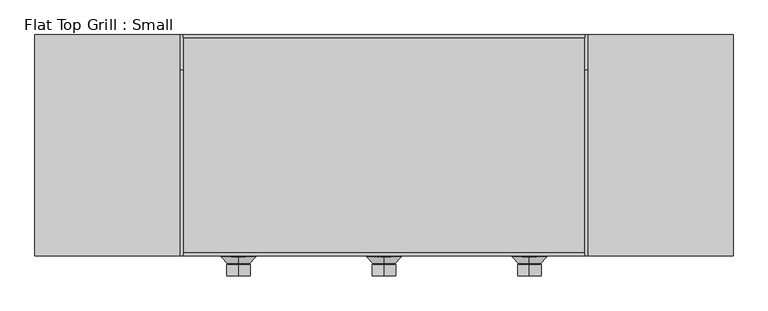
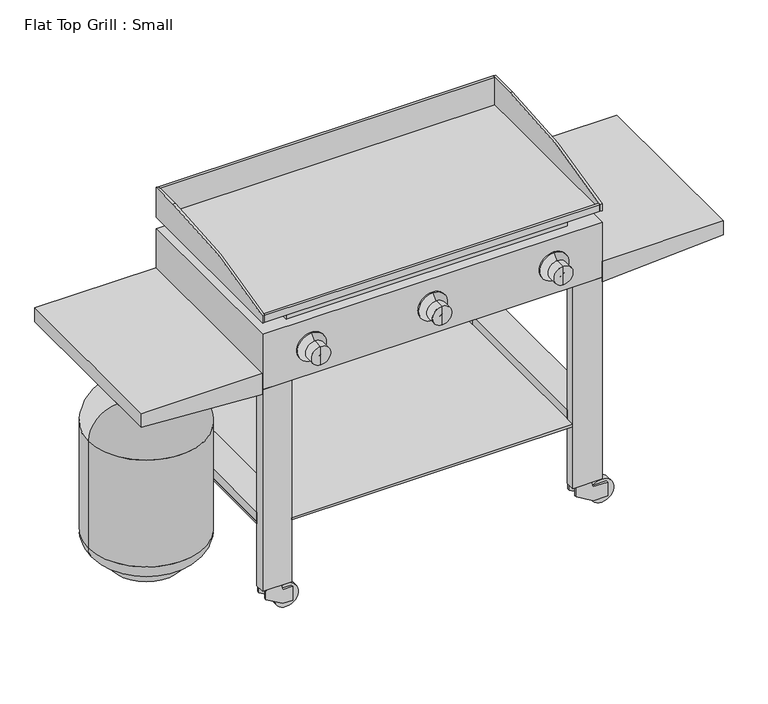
"""IFC4 building model written with IfcOpenShell, lengths in millimetres: proxy geometry, Flat Top Grill : Small."""

import ifcopenshell
import ifcopenshell.guid

model = None  # the IFC model being written
_history = None  # IfcOwnerHistory: only IFC2X3 demands one
_inside = {}  # id of a spatial element -> (the spatial element, [elements in it])
_under = {}  # id of a project, library or spatial element -> (it, [spatial elements below it])
_declared = {}  # id of a project -> (the project, [libraries it declares])
_typed = {}  # id of a type object -> (the type object, [elements of that type])
_made_of = {}  # id of a material, layer set ... -> (it, [elements and type objects made of it])


def new_model(schema):
    """Start an empty IFC model of exactly this schema.

    Asked for "IFC4X3", IfcOpenShell would pick the latest addendum, in which some entities
    have other attributes; the version numbers below select the first issue.
    IFC2X3 requires an IfcOwnerHistory on every rooted entity: one is made here for all.
    """
    global model, _history
    if schema == "IFC4X3":
        model = ifcopenshell.file(schema_version=(4, 3, 0, 0))
    else:
        model = ifcopenshell.file(schema=schema)
    _inside.clear()
    _under.clear()
    _declared.clear()
    _typed.clear()
    _made_of.clear()
    _history = None
    if model.schema == "IFC2X3":
        org = make("IfcOrganization", Name="unknown")
        user = make(
            "IfcPersonAndOrganization",
            ThePerson=make("IfcPerson", FamilyName="unknown"),
            TheOrganization=org,
        )
        app = make(
            "IfcApplication",
            ApplicationDeveloper=org,
            Version="unknown",
            ApplicationFullName="unknown",
            ApplicationIdentifier="unknown",
        )
        _history = make(
            "IfcOwnerHistory",
            OwningUser=user,
            OwningApplication=app,
            ChangeAction="ADDED",
            CreationDate=0,
        )
    return model


def make(cls, **values):
    """One entity of the class cls with the attributes given. An attribute that is None is left unset."""
    return model.create_entity(
        cls, **{name: value for name, value in values.items() if value is not None}
    )


def rooted(cls, **values):
    """An entity with a GlobalId (a new one), such as an element, a storey or a relation."""
    return make(cls, GlobalId=ifcopenshell.guid.new(), OwnerHistory=_history, **values)


def si_unit(unit_type, name, prefix=None):
    """IfcSIUnit, for example si_unit("LENGTHUNIT", "METRE", prefix="MILLI")."""
    return make("IfcSIUnit", UnitType=unit_type, Prefix=prefix, Name=name)


def assignment(units):
    """IfcUnitAssignment: the units of a project."""
    return None if units is None else make("IfcUnitAssignment", Units=units)


def point(xyz):
    """IfcCartesianPoint."""
    return None if xyz is None else make("IfcCartesianPoint", Coordinates=xyz)


def direction(xyz):
    """IfcDirection."""
    return None if xyz is None else make("IfcDirection", DirectionRatios=xyz)


def frame(location, z_axis=None, x_axis=None):
    """IfcAxis2Placement3D, a coordinate frame: its origin and axes. An axis left out is left unset."""
    return make(
        "IfcAxis2Placement3D",
        Location=point(location),
        Axis=direction(z_axis),
        RefDirection=direction(x_axis),
    )


def frame_2d(location, x_axis=None):
    """IfcAxis2Placement2D, a coordinate frame in the plane: its origin and x axis."""
    return make(
        "IfcAxis2Placement2D", Location=point(location), RefDirection=direction(x_axis)
    )


def origin():
    """The frame at (0, 0, 0) with its axes left unset."""
    return frame((0.0, 0.0, 0.0))


def place(relative_to, where):
    """IfcLocalPlacement: puts the frame where relative to a parent placement (None: the world)."""
    return make(
        "IfcLocalPlacement", PlacementRelTo=relative_to, RelativePlacement=where
    )


def context(
    kind, dimensions, precision=None, world=None, true_north=None, identifier=None
):
    """IfcGeometricRepresentationContext, for example the 3D "Model" context."""
    return make(
        "IfcGeometricRepresentationContext",
        ContextIdentifier=identifier,
        ContextType=kind,
        CoordinateSpaceDimension=dimensions,
        Precision=precision,
        WorldCoordinateSystem=world,
        TrueNorth=true_north,
    )


def project(units=None, contexts=None):
    """IfcProject with its units and contexts."""
    return rooted(
        "IfcProject",
        Name="project",
        RepresentationContexts=contexts,
        UnitsInContext=assignment(units),
    )


def spatial(cls, under=None, at=None, **own):
    """A site, building, storey or space (cls), placed at a placement, below another one or the project."""
    s = rooted(cls, ObjectPlacement=at, **own)
    if under is not None:
        _under.setdefault(under.id(), (under, []))[1].append(s)
    return s


def polyline(points):
    """IfcPolyline through the points."""
    return make("IfcPolyline", Points=[point(p) for p in points])


def circle_curve(where, radius):
    """IfcCircle in the frame where."""
    return make("IfcCircle", Position=where, Radius=radius)


def ellipse_curve(where, semi_axis1, semi_axis2):
    """IfcEllipse in the frame where."""
    return make(
        "IfcEllipse", Position=where, SemiAxis1=semi_axis1, SemiAxis2=semi_axis2
    )


def trimmed(basis, trim1, trim2, sense, master):
    """IfcTrimmedCurve: the piece of a basis curve between two trims."""
    return make(
        "IfcTrimmedCurve",
        BasisCurve=basis,
        Trim1=trim1,
        Trim2=trim2,
        SenseAgreement=sense,
        MasterRepresentation=master,
    )


def segment(curve, same_sense, transition):
    """IfcCompositeCurveSegment."""
    return make(
        "IfcCompositeCurveSegment",
        Transition=transition,
        SameSense=same_sense,
        ParentCurve=curve,
    )


def composite_curve(segments, self_intersect=None):
    """IfcCompositeCurve: segments joined end to end."""
    return make("IfcCompositeCurve", Segments=segments, SelfIntersect=self_intersect)


def outline(outer, holes=None, kind="AREA"):
    """IfcArbitraryClosedProfileDef: a profile drawn as a closed curve; with holes, ...WithVoids."""
    if holes is None:
        return make("IfcArbitraryClosedProfileDef", ProfileType=kind, OuterCurve=outer)
    return make(
        "IfcArbitraryProfileDefWithVoids",
        ProfileType=kind,
        OuterCurve=outer,
        InnerCurves=holes,
    )


def extrude(swept, where, along, depth):
    """IfcExtrudedAreaSolid: the profile swept, set in the frame where, extruded along a direction by depth."""
    return make(
        "IfcExtrudedAreaSolid",
        SweptArea=swept,
        Position=where,
        ExtrudedDirection=direction(along),
        Depth=depth,
    )


def shape(context_of_items, identifier, shape_type, items):
    """IfcShapeRepresentation: the items that make up one representation, for example the "Body"."""
    return make(
        "IfcShapeRepresentation",
        ContextOfItems=context_of_items,
        RepresentationIdentifier=identifier,
        RepresentationType=shape_type,
        Items=items,
    )


def source(mapping_origin, context_of_items, identifier, shape_type, items):
    """IfcRepresentationMap: a shape defined once, which mapped items show again and again."""
    return make(
        "IfcRepresentationMap",
        MappingOrigin=mapping_origin,
        MappedRepresentation=shape(context_of_items, identifier, shape_type, items),
    )


def transform(
    local_origin,
    x_axis=None,
    y_axis=None,
    z_axis=None,
    scale=None,
    scale2=None,
    scale3=None,
    uniform=True,
):
    """IfcCartesianTransformationOperator3D, or its non-uniform kind. x_axis, y_axis, z_axis: its Axis1, 2, 3."""
    if uniform:
        return make(
            "IfcCartesianTransformationOperator3D",
            Axis1=direction(x_axis),
            Axis2=direction(y_axis),
            LocalOrigin=point(local_origin),
            Scale=scale,
            Axis3=direction(z_axis),
        )
    return make(
        "IfcCartesianTransformationOperator3DnonUniform",
        Axis1=direction(x_axis),
        Axis2=direction(y_axis),
        LocalOrigin=point(local_origin),
        Scale=scale,
        Axis3=direction(z_axis),
        Scale2=scale2,
        Scale3=scale3,
    )


def mapped(mapping_source, mapping_target):
    """IfcMappedItem: shows the shape of a source again, moved by a transform."""
    return make(
        "IfcMappedItem", MappingSource=mapping_source, MappingTarget=mapping_target
    )


def made_of(thing, what):
    """Note that an element or type object is made of a material, layer set ...; save() writes the relation."""
    if what is not None:
        _made_of.setdefault(what.id(), (what, []))[1].append(thing)
    return thing


def element(
    cls,
    number,
    at=None,
    inside=None,
    cuts=None,
    type_object=None,
    material=None,
    context=None,
    identifier="Body",
    shape_type=None,
    held_by="IfcProductDefinitionShape",
    body=None,
    shapes=None,
    **own,
):
    """One element of the class cls, such as IfcWall. Its Tag is "e" and its number.

    at: its placement. inside: the storey or other place that contains it. cuts: it is an
    opening in that element (IfcRelVoidsElement). A single representation is given by context,
    identifier, shape_type and body (its items); several are given by shapes. held_by: the class
    of the entity that holds the representations. save() writes the other relations.
    """
    e = rooted(cls, Tag="e%d" % number, ObjectPlacement=at, **own)
    if body is not None:
        shapes = [shape(context, identifier, shape_type, body)]
    if shapes is not None:
        e.Representation = make(held_by, Representations=shapes)
    if inside is not None:
        _inside.setdefault(inside.id(), (inside, []))[1].append(e)
    if cuts is not None:
        rooted(
            "IfcRelVoidsElement", RelatingBuildingElement=cuts, RelatedOpeningElement=e
        )
    if type_object is not None:
        _typed.setdefault(type_object.id(), (type_object, []))[1].append(e)
    return made_of(e, material)


def aggregate(whole, parts):
    """IfcRelAggregates: a whole, such as a stair, and the parts it consists of."""
    return rooted("IfcRelAggregates", RelatingObject=whole, RelatedObjects=parts)


def save(model, path):
    """Write the relations noted so far, then the file.

    IfcRelAggregates (storeys below a building ...), IfcRelContainedInSpatialStructure (elements
    in a storey), IfcRelDefinesByType, IfcRelAssociatesMaterial and IfcRelDeclares: one each for
    every whole, place, type object, material and project.
    """
    for whole, parts in _under.values():
        aggregate(whole, parts)
    for where, things in _inside.values():
        rooted(
            "IfcRelContainedInSpatialStructure",
            RelatedElements=things,
            RelatingStructure=where,
        )
    for kind, things in _typed.values():
        rooted("IfcRelDefinesByType", RelatedObjects=things, RelatingType=kind)
    for what, things in _made_of.values():
        rooted("IfcRelAssociatesMaterial", RelatedObjects=things, RelatingMaterial=what)
    for by, libraries in _declared.values():
        rooted("IfcRelDeclares", RelatingContext=by, RelatedDefinitions=libraries)
    model.write(path)


def plane_surface(at):
    """IfcPlane: the flat surface through the origin of the frame at, square to its z axis."""
    return make("IfcPlane", Position=at)


def cylinder_surface(at, radius):
    """IfcCylindricalSurface: all points at the distance radius from the z axis of the frame at."""
    return make("IfcCylindricalSurface", Position=at, Radius=radius)


def revolved_surface(curve, axis_point, axis_direction):
    """IfcSurfaceOfRevolution: the curve turned about the line through axis_point along axis_direction."""
    return make(
        "IfcSurfaceOfRevolution",
        SweptCurve=make("IfcArbitraryOpenProfileDef", ProfileType="CURVE", Curve=curve),
        AxisPosition=make("IfcAxis1Placement", Location=point(axis_point), Axis=direction(axis_direction)),
    )


def advanced_brep(points, edges, surfaces, faces):
    """IfcAdvancedBrep: a solid bounded by faces that lie on surfaces and meet in shared edges.

    An edge is (start, end): straight between two places in points (the first is 0);
    or (start, end, curve); or (start, end, curve, False) where it runs against its curve.
    A face is (place in surfaces, loops), or (place, loops, False) where it looks against
    its surface's normal. A loop lists edges by number (the first is 1), with a minus sign
    where the edge is run from its end to its start. The first loop is the outer one.
    """
    corners = [point(p) for p in points]
    vertices = [make("IfcVertexPoint", VertexGeometry=c) for c in corners]
    made = []
    for start, end, *more in edges:
        made.append(
            make(
                "IfcEdgeCurve",
                EdgeStart=vertices[start],
                EdgeEnd=vertices[end],
                EdgeGeometry=more[0] if more else make("IfcPolyline", Points=[corners[start], corners[end]]),
                SameSense=more[1] if len(more) > 1 else True,
            )
        )
    hull = []
    for where, loops, *sense in faces:
        bounds = []
        for j, loop in enumerate(loops):
            ring = [make("IfcOrientedEdge", EdgeElement=made[abs(k) - 1], Orientation=k > 0) for k in loop]
            bounds.append(
                make(
                    "IfcFaceOuterBound" if j == 0 else "IfcFaceBound",
                    Bound=make("IfcEdgeLoop", EdgeList=ring),
                    Orientation=True,
                )
            )
        hull.append(make("IfcAdvancedFace", Bounds=bounds, FaceSurface=surfaces[where], SameSense=sense[0] if sense else True))
    return make("IfcAdvancedBrep", Outer=make("IfcClosedShell", CfsFaces=hull))


def flat_top_grill_small_9eb78ae7(model_context):
    return source(origin(), model_context, "Body", "SolidModel", [
        advanced_brep(
        [(-698.5, 0.0, 76.2), (-520.7, 0.0, 76.2), (-609.6, 0.0, 76.2), (-698.5, 0.0, 111.125), (-520.7, 0.0, 111.125), (-762.0, 0.0, 457.2), (-457.2, 0.0, 457.2), (-457.2, 0.0, 161.925), (-762.0, 0.0, 161.925), (-609.6, 0.0, 533.4), (-533.4, 0.0, 533.4), (-685.8, 0.0, 533.4), (-508.0, 0.0, 111.125), (-711.2, 0.0, 111.125)],
        [
            (0, 1, circle_curve(frame((-609.6, 0.0, 76.2), z_axis=(0.0, 0.0, -1.0), x_axis=(1.0, 0.0, 0.0)), 88.9)),
            (1, 2),
            (2, 0),
            (1, 0, circle_curve(frame((-609.6, 0.0, 76.2), z_axis=(0.0, 0.0, -1.0), x_axis=(1.0, 0.0, 0.0)), 88.9)),
            (3, 4, circle_curve(frame((-609.6, 0.0, 111.125), z_axis=(0.0, 0.0, -1.0), x_axis=(1.0, 0.0, 0.0)), 88.9)),
            (4, 1),
            (0, 3),
            (4, 3, circle_curve(frame((-609.6, 0.0, 111.125), z_axis=(0.0, 0.0, -1.0), x_axis=(1.0, 0.0, 0.0)), 88.9)),
            (5, 6, circle_curve(frame((-609.6, 0.0, 457.2), z_axis=(0.0, 0.0, -1.0), x_axis=(1.0, 0.0, 0.0)), 152.4)),
            (6, 7),
            (7, 8, circle_curve(frame((-609.6, 0.0, 161.925), z_axis=(0.0, 0.0, 1.0), x_axis=(1.0, 0.0, 0.0)), 152.4)),
            (8, 5),
            (6, 5, circle_curve(frame((-609.6, 0.0, 457.2), z_axis=(0.0, 0.0, -1.0), x_axis=(1.0, 0.0, 0.0)), 152.4)),
            (8, 7, circle_curve(frame((-609.6, 0.0, 161.925), z_axis=(0.0, 0.0, 1.0), x_axis=(1.0, 0.0, 0.0)), 152.4)),
            (9, 10),
            (10, 11, circle_curve(frame((-609.6, 0.0, 533.4), z_axis=(0.0, 0.0, 1.0), x_axis=(1.0, 0.0, 0.0)), 76.2)),
            (11, 9),
            (11, 10, circle_curve(frame((-609.6, 0.0, 533.4), z_axis=(0.0, 0.0, 1.0), x_axis=(1.0, 0.0, 0.0)), 76.2)),
            (7, 12, circle_curve(frame((-508.0, 0.0, 161.925), z_axis=(0.0, 1.0, 0.0), x_axis=(1.0, 0.0, 0.0)), 50.8)),
            (12, 13, circle_curve(frame((-609.6, 0.0, 111.125), z_axis=(0.0, 0.0, 1.0), x_axis=(1.0, 0.0, 0.0)), 101.6)),
            (13, 8, circle_curve(frame((-711.2, 0.0, 161.925), z_axis=(0.0, 1.0, 0.0), x_axis=(-1.0, 0.0, 0.0)), 50.8)),
            (13, 12, circle_curve(frame((-609.6, 0.0, 111.125), z_axis=(0.0, 0.0, 1.0), x_axis=(1.0, 0.0, 0.0)), 101.6)),
            (10, 6, circle_curve(frame((-533.4, 0.0, 457.2), z_axis=(0.0, 1.0, 0.0), x_axis=(1.0, 0.0, 0.0)), 76.2)),
            (5, 11, circle_curve(frame((-685.8, 0.0, 457.2), z_axis=(0.0, 1.0, 0.0), x_axis=(-1.0, 0.0, 0.0)), 76.2)),
            (12, 4),
            (3, 13),
        ],
        [
            plane_surface(frame((-609.6, 0.0, 76.2), z_axis=(0.0, 0.0, -1.0), x_axis=(1.0, 0.0, 0.0))),
            cylinder_surface(frame((-609.6, 0.0, 50.8), z_axis=(0.0, 0.0, 1.0), x_axis=(1.0, 0.0, 0.0)), 88.9),
            cylinder_surface(frame((-609.6, 0.0, 50.8), z_axis=(0.0, 0.0, 1.0), x_axis=(1.0, 0.0, 0.0)), 152.4),
            plane_surface(frame((-609.6, 0.0, 533.4), z_axis=(0.0, 0.0, 1.0), x_axis=(1.0, 0.0, 0.0))),
            revolved_surface(trimmed(ellipse_curve(frame((-508.0, 0.0, 161.925), z_axis=(0.0, -1.0, 0.0), x_axis=(1.0, 0.0, 0.0)), 50.8, 50.8), [point((-508.0, 0.0, 111.125))], [point((-457.2, 0.0, 161.925))], True, "CARTESIAN"), (-609.6, 0.0, 50.8), (0.0, 0.0, 1.0)),
            revolved_surface(trimmed(ellipse_curve(frame((-533.4, 0.0, 457.2), z_axis=(0.0, -1.0, 0.0), x_axis=(1.0, 0.0, 0.0)), 76.2, 76.2), [point((-457.2, 0.0, 457.2))], [point((-533.4, 0.0, 533.4))], True, "CARTESIAN"), (-609.6, 0.0, 50.8), (0.0, 0.0, 1.0)),
            plane_surface(frame((-609.6, 0.0, 111.125), z_axis=(0.0, 0.0, -1.0), x_axis=(1.0, 0.0, 0.0))),
        ],
        [
            (0, [[1, 2, 3]]),
            (0, [[4, -3, -2]]),
            (1, [[5, 6, -1, 7]]),
            (1, [[8, -7, -4, -6]]),
            (2, [[9, 10, 11, 12]]),
            (2, [[13, -12, 14, -10]]),
            (3, [[15, 16, 17]]),
            (3, [[-17, 18, -15]]),
            (4, [[-11, 19, 20, 21]]),
            (4, [[-14, -21, 22, -19]]),
            (5, [[-16, 23, -9, 24]]),
            (5, [[-18, -24, -13, -23]]),
            (6, [[-20, 25, -5, 26]]),
            (6, [[-22, -26, -8, -25]]),
        ],
    ),
        extrude(outline(composite_curve([segment(trimmed(circle_curve(frame_2d((-609.6, 0.0)), 76.2), [point((-663.4815367, -53.8815367))], [point((-555.7184633, -53.8815367))], False, "CARTESIAN"), True, "CONTINUOUS"), segment(polyline([(-555.7184633, -53.8815367), (-559.0860593, -50.5139407)]), True, "CONTINUOUS"), segment(trimmed(circle_curve(frame_2d((-609.6, 0.0)), 71.4375), [point((-559.0860593, -50.5139407))], [point((-660.1139407, -50.5139407))], True, "CARTESIAN"), True, "CONTINUOUS"), segment(polyline([(-660.1139407, -50.5139407), (-663.4815367, -53.8815367)]), True, "CONTINUOUS")], self_intersect=False)), frame((0.0, 0.0, 533.4), z_axis=(0.0, 0.0, 1.0), x_axis=(1.0, 0.0, 0.0)), (0.0, 0.0, 1.0), 50.8),
        advanced_brep(
        [(-641.35, 0.0, 571.5), (-577.85, 0.0, 571.5), (-577.85, 0.0, 565.15), (-641.35, 0.0, 565.15), (-609.6, 0.0, 571.5), (-619.125, 0.0, 533.4), (-600.075, 0.0, 533.4), (-609.6, 0.0, 533.4), (-619.125, 0.0, 565.15), (-600.075, 0.0, 565.15)],
        [
            (0, 1, circle_curve(frame((-609.6, 0.0, 571.5), z_axis=(0.0, 0.0, -1.0), x_axis=(1.0, 0.0, 0.0)), 31.75)),
            (1, 2),
            (2, 3, circle_curve(frame((-609.6, 0.0, 565.15), z_axis=(0.0, 0.0, 1.0), x_axis=(1.0, 0.0, 0.0)), 31.75)),
            (3, 0),
            (1, 0, circle_curve(frame((-609.6, 0.0, 571.5), z_axis=(0.0, 0.0, -1.0), x_axis=(1.0, 0.0, 0.0)), 31.75)),
            (3, 2, circle_curve(frame((-609.6, 0.0, 565.15), z_axis=(0.0, 0.0, 1.0), x_axis=(1.0, 0.0, 0.0)), 31.75)),
            (4, 1),
            (0, 4),
            (5, 6, circle_curve(frame((-609.6, 0.0, 533.4), z_axis=(0.0, 0.0, -1.0), x_axis=(1.0, 0.0, 0.0)), 9.525)),
            (6, 7),
            (7, 5),
            (6, 5, circle_curve(frame((-609.6, 0.0, 533.4), z_axis=(0.0, 0.0, -1.0), x_axis=(1.0, 0.0, 0.0)), 9.525)),
            (8, 9, circle_curve(frame((-609.6, 0.0, 565.15), z_axis=(0.0, 0.0, -1.0), x_axis=(1.0, 0.0, 0.0)), 9.525)),
            (9, 6),
            (5, 8),
            (9, 8, circle_curve(frame((-609.6, 0.0, 565.15), z_axis=(0.0, 0.0, -1.0), x_axis=(1.0, 0.0, 0.0)), 9.525)),
            (2, 9),
            (8, 3),
        ],
        [
            cylinder_surface(frame((-609.6, 0.0, 508.0), z_axis=(0.0, 0.0, 1.0), x_axis=(1.0, 0.0, 0.0)), 31.75),
            plane_surface(frame((-609.6, 0.0, 571.5), z_axis=(0.0, 0.0, 1.0), x_axis=(1.0, 0.0, 0.0))),
            plane_surface(frame((-609.6, 0.0, 533.4), z_axis=(0.0, 0.0, -1.0), x_axis=(1.0, 0.0, 0.0))),
            cylinder_surface(frame((-609.6, 0.0, 508.0), z_axis=(0.0, 0.0, 1.0), x_axis=(1.0, 0.0, 0.0)), 9.525),
            plane_surface(frame((-609.6, 0.0, 565.15), z_axis=(0.0, 0.0, -1.0), x_axis=(1.0, 0.0, 0.0))),
        ],
        [
            (0, [[1, 2, 3, 4]]),
            (0, [[5, -4, 6, -2]]),
            (1, [[7, -1, 8]]),
            (1, [[-8, -5, -7]]),
            (2, [[9, 10, 11]]),
            (2, [[12, -11, -10]]),
            (3, [[13, 14, -9, 15]]),
            (3, [[16, -15, -12, -14]]),
            (4, [[-3, 17, -13, 18]]),
            (4, [[-6, -18, -16, -17]]),
        ],
    ),
        advanced_brep(
        [(0.0, -241.3, 749.3), (0.0, -241.3, 673.1), (0.0, -241.3, 711.2), (0.0, -244.475, 749.3), (0.0, -244.475, 673.1), (0.0, -258.7625, 735.0125), (0.0, -258.7625, 687.3875), (0.0, -260.35, 736.6), (0.0, -260.35, 685.8), (0.0, -285.75, 736.6), (0.0, -285.75, 685.8), (0.0, -285.75, 711.2)],
        [
            (0, 1, circle_curve(frame((0.0, -241.3, 711.2), z_axis=(0.0, 1.0, 0.0), x_axis=(0.0, 0.0, -1.0)), 38.1)),
            (1, 2),
            (2, 0),
            (1, 0, circle_curve(frame((0.0, -241.3, 711.2), z_axis=(0.0, 1.0, 0.0), x_axis=(0.0, 0.0, -1.0)), 38.1)),
            (3, 4, circle_curve(frame((0.0, -244.475, 711.2), z_axis=(0.0, 1.0, 0.0), x_axis=(0.0, 0.0, -1.0)), 38.1)),
            (4, 1),
            (0, 3),
            (4, 3, circle_curve(frame((0.0, -244.475, 711.2), z_axis=(0.0, 1.0, 0.0), x_axis=(0.0, 0.0, -1.0)), 38.1)),
            (5, 6, circle_curve(frame((0.0, -258.7625, 711.2), z_axis=(0.0, 1.0, 0.0), x_axis=(0.0, 0.0, -1.0)), 23.8125)),
            (6, 4),
            (3, 5),
            (6, 5, circle_curve(frame((0.0, -258.7625, 711.2), z_axis=(0.0, 1.0, 0.0), x_axis=(0.0, 0.0, -1.0)), 23.8125)),
            (7, 8, circle_curve(frame((0.0, -260.35, 711.2), z_axis=(0.0, 1.0, 0.0), x_axis=(0.0, 0.0, -1.0)), 25.4)),
            (8, 6),
            (5, 7),
            (8, 7, circle_curve(frame((0.0, -260.35, 711.2), z_axis=(0.0, 1.0, 0.0), x_axis=(0.0, 0.0, -1.0)), 25.4)),
            (9, 10, circle_curve(frame((0.0, -285.75, 711.2), z_axis=(0.0, 1.0, 0.0), x_axis=(0.0, 0.0, -1.0)), 25.4)),
            (10, 8),
            (7, 9),
            (10, 9, circle_curve(frame((0.0, -285.75, 711.2), z_axis=(0.0, 1.0, 0.0), x_axis=(0.0, 0.0, -1.0)), 25.4)),
            (11, 10),
            (9, 11),
        ],
        [
            plane_surface(frame((0.0, -241.3, 711.2), z_axis=(0.0, 1.0, 0.0), x_axis=(0.0, 0.0, -1.0))),
            cylinder_surface(frame((0.0, -285.75, 711.2), z_axis=(0.0, -1.0, 0.0), x_axis=(0.0, 0.0, -1.0)), 38.1),
            revolved_surface(polyline([(0.0, -244.475, 673.1), (0.0, -258.7625, 687.3875)]), (0.0, -285.75, 711.2), (0.0, -1.0, 0.0)),
            revolved_surface(polyline([(0.0, -258.7625, 687.3875), (0.0, -260.35, 685.8)]), (0.0, -285.75, 711.2), (0.0, -1.0, 0.0)),
            cylinder_surface(frame((0.0, -285.75, 711.2), z_axis=(0.0, -1.0, 0.0), x_axis=(0.0, 0.0, -1.0)), 25.4),
            plane_surface(frame((0.0, -285.75, 711.2), z_axis=(0.0, -1.0, 0.0), x_axis=(0.0, 0.0, -1.0))),
        ],
        [
            (0, [[1, 2, 3]]),
            (0, [[4, -3, -2]]),
            (1, [[5, 6, -1, 7]]),
            (1, [[8, -7, -4, -6]]),
            (2, [[9, 10, -5, 11]]),
            (2, [[12, -11, -8, -10]]),
            (3, [[13, 14, -9, 15]]),
            (3, [[16, -15, -12, -14]]),
            (4, [[17, 18, -13, 19]]),
            (4, [[20, -19, -16, -18]]),
            (5, [[21, -17, 22]]),
            (5, [[-22, -20, -21]]),
        ],
    ),
        advanced_brep(
        [(-317.5, -241.3, 749.3), (-317.5, -241.3, 673.1), (-317.5, -241.3, 711.2), (-317.5, -244.475, 749.3), (-317.5, -244.475, 673.1), (-317.5, -258.7625, 735.0125), (-317.5, -258.7625, 687.3875), (-317.5, -260.35, 736.6), (-317.5, -260.35, 685.8), (-317.5, -285.75, 736.6), (-317.5, -285.75, 685.8), (-317.5, -285.75, 711.2)],
        [
            (0, 1, circle_curve(frame((-317.5, -241.3, 711.2), z_axis=(0.0, 1.0, 0.0), x_axis=(0.0, 0.0, -1.0)), 38.1)),
            (1, 2),
            (2, 0),
            (1, 0, circle_curve(frame((-317.5, -241.3, 711.2), z_axis=(0.0, 1.0, 0.0), x_axis=(0.0, 0.0, -1.0)), 38.1)),
            (3, 4, circle_curve(frame((-317.5, -244.475, 711.2), z_axis=(0.0, 1.0, 0.0), x_axis=(0.0, 0.0, -1.0)), 38.1)),
            (4, 1),
            (0, 3),
            (4, 3, circle_curve(frame((-317.5, -244.475, 711.2), z_axis=(0.0, 1.0, 0.0), x_axis=(0.0, 0.0, -1.0)), 38.1)),
            (5, 6, circle_curve(frame((-317.5, -258.7625, 711.2), z_axis=(0.0, 1.0, 0.0), x_axis=(0.0, 0.0, -1.0)), 23.8125)),
            (6, 4),
            (3, 5),
            (6, 5, circle_curve(frame((-317.5, -258.7625, 711.2), z_axis=(0.0, 1.0, 0.0), x_axis=(0.0, 0.0, -1.0)), 23.8125)),
            (7, 8, circle_curve(frame((-317.5, -260.35, 711.2), z_axis=(0.0, 1.0, 0.0), x_axis=(0.0, 0.0, -1.0)), 25.4)),
            (8, 6),
            (5, 7),
            (8, 7, circle_curve(frame((-317.5, -260.35, 711.2), z_axis=(0.0, 1.0, 0.0), x_axis=(0.0, 0.0, -1.0)), 25.4)),
            (9, 10, circle_curve(frame((-317.5, -285.75, 711.2), z_axis=(0.0, 1.0, 0.0), x_axis=(0.0, 0.0, -1.0)), 25.4)),
            (10, 8),
            (7, 9),
            (10, 9, circle_curve(frame((-317.5, -285.75, 711.2), z_axis=(0.0, 1.0, 0.0), x_axis=(0.0, 0.0, -1.0)), 25.4)),
            (11, 10),
            (9, 11),
        ],
        [
            plane_surface(frame((-317.5, -241.3, 711.2), z_axis=(0.0, 1.0, 0.0), x_axis=(0.0, 0.0, -1.0))),
            cylinder_surface(frame((-317.5, -285.75, 711.2), z_axis=(0.0, -1.0, 0.0), x_axis=(0.0, 0.0, -1.0)), 38.1),
            revolved_surface(polyline([(-317.5, -244.475, 673.1), (-317.5, -258.7625, 687.3875)]), (-317.5, -285.75, 711.2), (0.0, -1.0, 0.0)),
            revolved_surface(polyline([(-317.5, -258.7625, 687.3875), (-317.5, -260.35, 685.8)]), (-317.5, -285.75, 711.2), (0.0, -1.0, 0.0)),
            cylinder_surface(frame((-317.5, -285.75, 711.2), z_axis=(0.0, -1.0, 0.0), x_axis=(0.0, 0.0, -1.0)), 25.4),
            plane_surface(frame((-317.5, -285.75, 711.2), z_axis=(0.0, -1.0, 0.0), x_axis=(0.0, 0.0, -1.0))),
        ],
        [
            (0, [[1, 2, 3]]),
            (0, [[4, -3, -2]]),
            (1, [[5, 6, -1, 7]]),
            (1, [[8, -7, -4, -6]]),
            (2, [[9, 10, -5, 11]]),
            (2, [[12, -11, -8, -10]]),
            (3, [[13, 14, -9, 15]]),
            (3, [[16, -15, -12, -14]]),
            (4, [[17, 18, -13, 19]]),
            (4, [[20, -19, -16, -18]]),
            (5, [[21, -17, 22]]),
            (5, [[-22, -20, -21]]),
        ],
    ),
        advanced_brep(
        [(317.5, -241.3, 749.3), (317.5, -241.3, 673.1), (317.5, -241.3, 711.2), (317.5, -244.475, 749.3), (317.5, -244.475, 673.1), (317.5, -258.7625, 735.0125), (317.5, -258.7625, 687.3875), (317.5, -260.35, 736.6), (317.5, -260.35, 685.8), (317.5, -285.75, 736.6), (317.5, -285.75, 685.8), (317.5, -285.75, 711.2)],
        [
            (0, 1, circle_curve(frame((317.5, -241.3, 711.2), z_axis=(0.0, 1.0, 0.0), x_axis=(0.0, 0.0, -1.0)), 38.1)),
            (1, 2),
            (2, 0),
            (1, 0, circle_curve(frame((317.5, -241.3, 711.2), z_axis=(0.0, 1.0, 0.0), x_axis=(0.0, 0.0, -1.0)), 38.1)),
            (3, 4, circle_curve(frame((317.5, -244.475, 711.2), z_axis=(0.0, 1.0, 0.0), x_axis=(0.0, 0.0, -1.0)), 38.1)),
            (4, 1),
            (0, 3),
            (4, 3, circle_curve(frame((317.5, -244.475, 711.2), z_axis=(0.0, 1.0, 0.0), x_axis=(0.0, 0.0, -1.0)), 38.1)),
            (5, 6, circle_curve(frame((317.5, -258.7625, 711.2), z_axis=(0.0, 1.0, 0.0), x_axis=(0.0, 0.0, -1.0)), 23.8125)),
            (6, 4),
            (3, 5),
            (6, 5, circle_curve(frame((317.5, -258.7625, 711.2), z_axis=(0.0, 1.0, 0.0), x_axis=(0.0, 0.0, -1.0)), 23.8125)),
            (7, 8, circle_curve(frame((317.5, -260.35, 711.2), z_axis=(0.0, 1.0, 0.0), x_axis=(0.0, 0.0, -1.0)), 25.4)),
            (8, 6),
            (5, 7),
            (8, 7, circle_curve(frame((317.5, -260.35, 711.2), z_axis=(0.0, 1.0, 0.0), x_axis=(0.0, 0.0, -1.0)), 25.4)),
            (9, 10, circle_curve(frame((317.5, -285.75, 711.2), z_axis=(0.0, 1.0, 0.0), x_axis=(0.0, 0.0, -1.0)), 25.4)),
            (10, 8),
            (7, 9),
            (10, 9, circle_curve(frame((317.5, -285.75, 711.2), z_axis=(0.0, 1.0, 0.0), x_axis=(0.0, 0.0, -1.0)), 25.4)),
            (11, 10),
            (9, 11),
        ],
        [
            plane_surface(frame((317.5, -241.3, 711.2), z_axis=(0.0, 1.0, 0.0), x_axis=(0.0, 0.0, -1.0))),
            cylinder_surface(frame((317.5, -285.75, 711.2), z_axis=(0.0, -1.0, 0.0), x_axis=(0.0, 0.0, -1.0)), 38.1),
            revolved_surface(polyline([(317.5, -244.475, 673.1), (317.5, -258.7625, 687.3875)]), (317.5, -285.75, 711.2), (0.0, -1.0, 0.0)),
            revolved_surface(polyline([(317.5, -258.7625, 687.3875), (317.5, -260.35, 685.8)]), (317.5, -285.75, 711.2), (0.0, -1.0, 0.0)),
            cylinder_surface(frame((317.5, -285.75, 711.2), z_axis=(0.0, -1.0, 0.0), x_axis=(0.0, 0.0, -1.0)), 25.4),
            plane_surface(frame((317.5, -285.75, 711.2), z_axis=(0.0, -1.0, 0.0), x_axis=(0.0, 0.0, -1.0))),
        ],
        [
            (0, [[1, 2, 3]]),
            (0, [[4, -3, -2]]),
            (1, [[5, 6, -1, 7]]),
            (1, [[8, -7, -4, -6]]),
            (2, [[9, 10, -5, 11]]),
            (2, [[12, -11, -8, -10]]),
            (3, [[13, 14, -9, 15]]),
            (3, [[16, -15, -12, -14]]),
            (4, [[17, 18, -13, 19]]),
            (4, [[20, -19, -16, -18]]),
            (5, [[21, -17, 22]]),
            (5, [[-22, -20, -21]]),
        ],
    ),
        extrude(outline(polyline([(44.7132195, 380.7483683), (19.05, 425.1983683), (19.05, 463.2983683), (57.15, 463.2983683), (57.15, 424.4560638), (76.2, 419.3516317), (76.2, 380.7483683), (44.7132195, 380.7483683)])), frame((0.0, -234.95, 0.0), z_axis=(0.0, 1.0, 0.0), x_axis=(0.0, 0.0, 1.0)), (0.0, 0.0, 1.0), 6.35),
        extrude(outline(composite_curve([segment(trimmed(circle_curve(frame_2d((31.75, 452.3496612)), 31.75), [point((0.0, 452.3496612))], [point((63.5, 452.3496612))], False, "CARTESIAN"), True, "CONTINUOUS"), segment(trimmed(circle_curve(frame_2d((31.75, 452.3496612)), 31.75), [point((63.5, 452.3496612))], [point((0.0, 452.3496612))], False, "CARTESIAN"), True, "CONTINUOUS")], self_intersect=False)), frame((0.0, -225.552, 0.0), z_axis=(0.0, 1.0, 0.0), x_axis=(0.0, 0.0, 1.0)), (0.0, 0.0, 1.0), 19.304),
        extrude(outline(polyline([(44.7132195, 380.7483683), (19.05, 425.1983683), (19.05, 463.2983683), (57.15, 463.2983683), (57.15, 424.4560638), (76.2, 419.3516317), (76.2, 380.7483683), (44.7132195, 380.7483683)])), frame((0.0, -203.2, 0.0), z_axis=(0.0, 1.0, 0.0), x_axis=(0.0, 0.0, 1.0)), (0.0, 0.0, 1.0), 6.35),
        extrude(outline(polyline([(44.7132195, 380.7483683), (19.05, 425.1983683), (19.05, 463.2983683), (57.15, 463.2983683), (57.15, 424.4560638), (76.2, 419.3516317), (76.2, 380.7483683), (44.7132195, 380.7483683)])), frame((0.0, 228.6, 0.0), z_axis=(0.0, 1.0, 0.0), x_axis=(0.0, 0.0, 1.0)), (0.0, 0.0, 1.0), 6.35),
        extrude(outline(composite_curve([segment(trimmed(circle_curve(frame_2d((31.75, 452.3496612)), 31.75), [point((0.0, 452.3496612))], [point((63.5, 452.3496612))], False, "CARTESIAN"), True, "CONTINUOUS"), segment(trimmed(circle_curve(frame_2d((31.75, 452.3496612)), 31.75), [point((63.5, 452.3496612))], [point((0.0, 452.3496612))], False, "CARTESIAN"), True, "CONTINUOUS")], self_intersect=False)), frame((0.0, 206.248, 0.0), z_axis=(0.0, 1.0, 0.0), x_axis=(0.0, 0.0, 1.0)), (0.0, 0.0, 1.0), 19.304),
        extrude(outline(polyline([(44.7132195, 380.7483683), (19.05, 425.1983683), (19.05, 463.2983683), (57.15, 463.2983683), (57.15, 424.4560638), (76.2, 419.3516317), (76.2, 380.7483683), (44.7132195, 380.7483683)])), frame((0.0, 196.85, 0.0), z_axis=(0.0, 1.0, 0.0), x_axis=(0.0, 0.0, 1.0)), (0.0, 0.0, 1.0), 6.35),
        extrude(outline(polyline([(44.7132195, -432.0516317), (19.05, -387.6016317), (19.05, -362.2016317), (57.15, -362.2016317), (57.15, -388.3439362), (76.2, -393.4483683), (76.2, -432.0516317), (44.7132195, -432.0516317)])), frame((0.0, -234.95, 0.0), z_axis=(0.0, 1.0, 0.0), x_axis=(0.0, 0.0, 1.0)), (0.0, 0.0, 1.0), 6.35),
        extrude(outline(composite_curve([segment(trimmed(circle_curve(frame_2d((31.75, -373.1503388)), 31.75), [point((0.0, -373.1503388))], [point((63.5, -373.1503388))], False, "CARTESIAN"), True, "CONTINUOUS"), segment(trimmed(circle_curve(frame_2d((31.75, -373.1503388)), 31.75), [point((63.5, -373.1503388))], [point((0.0, -373.1503388))], False, "CARTESIAN"), True, "CONTINUOUS")], self_intersect=False)), frame((0.0, -225.552, 0.0), z_axis=(0.0, 1.0, 0.0), x_axis=(0.0, 0.0, 1.0)), (0.0, 0.0, 1.0), 19.304),
        extrude(outline(polyline([(44.7132195, -432.0516317), (19.05, -387.6016317), (19.05, -362.2016317), (57.15, -362.2016317), (57.15, -388.3439362), (76.2, -393.4483683), (76.2, -432.0516317), (44.7132195, -432.0516317)])), frame((0.0, -203.2, 0.0), z_axis=(0.0, 1.0, 0.0), x_axis=(0.0, 0.0, 1.0)), (0.0, 0.0, 1.0), 6.35),
        extrude(outline(polyline([(44.7132195, -432.0516317), (19.05, -387.6016317), (19.05, -362.2016317), (57.15, -362.2016317), (57.15, -388.3439362), (76.2, -393.4483683), (76.2, -432.0516317), (44.7132195, -432.0516317)])), frame((0.0, 228.6, 0.0), z_axis=(0.0, 1.0, 0.0), x_axis=(0.0, 0.0, 1.0)), (0.0, 0.0, 1.0), 6.35),
        extrude(outline(composite_curve([segment(trimmed(circle_curve(frame_2d((31.75, -373.1503388)), 31.75), [point((0.0, -373.1503388))], [point((63.5, -373.1503388))], False, "CARTESIAN"), True, "CONTINUOUS"), segment(trimmed(circle_curve(frame_2d((31.75, -373.1503388)), 31.75), [point((63.5, -373.1503388))], [point((0.0, -373.1503388))], False, "CARTESIAN"), True, "CONTINUOUS")], self_intersect=False)), frame((0.0, 206.248, 0.0), z_axis=(0.0, 1.0, 0.0), x_axis=(0.0, 0.0, 1.0)), (0.0, 0.0, 1.0), 19.304),
        extrude(outline(polyline([(44.7132195, -432.0516317), (19.05, -387.6016317), (19.05, -362.2016317), (57.15, -362.2016317), (57.15, -388.3439362), (76.2, -393.4483683), (76.2, -432.0516317), (44.7132195, -432.0516317)])), frame((0.0, 196.85, 0.0), z_axis=(0.0, 1.0, 0.0), x_axis=(0.0, 0.0, 1.0)), (0.0, 0.0, 1.0), 6.35),
        extrude(outline(polyline([(444.5, 241.3), (444.5, -241.3), (-444.5, -241.3), (-444.5, 241.3), (444.5, 241.3)])), frame((0.0, 0.0, 635.0), z_axis=(0.0, 0.0, 1.0), x_axis=(1.0, 0.0, 0.0)), (0.0, 0.0, 1.0), 152.4),
        extrude(outline(polyline([(679.45, -444.5), (679.45, -762.0), (641.35, -762.0), (622.3, -444.5), (679.45, -444.5)])), frame((0.0, -241.3, 0.0), z_axis=(0.0, 1.0, 0.0), x_axis=(0.0, 0.0, 1.0)), (0.0, 0.0, 1.0), 482.6),
        extrude(outline(polyline([(679.45, 444.5), (622.3, 444.5), (641.35, 762.0), (679.45, 762.0), (679.45, 444.5)])), frame((0.0, -241.3, 0.0), z_axis=(0.0, 1.0, 0.0), x_axis=(0.0, 0.0, 1.0)), (0.0, 0.0, 1.0), 482.6),
        extrude(outline(polyline([(-368.3, 241.3), (-368.3, 215.9), (-444.5, 215.9), (-444.5, 241.3), (-368.3, 241.3)])), frame((0.0, 0.0, 76.2), z_axis=(0.0, 0.0, 1.0), x_axis=(1.0, 0.0, 0.0)), (0.0, 0.0, 1.0), 558.8),
        extrude(outline(polyline([(444.5, 241.3), (444.5, 215.9), (368.3, 215.9), (368.3, 241.3), (444.5, 241.3)])), frame((0.0, 0.0, 76.2), z_axis=(0.0, 0.0, 1.0), x_axis=(1.0, 0.0, 0.0)), (0.0, 0.0, 1.0), 558.8),
        extrude(outline(polyline([(-368.3, -215.9), (-368.3, -241.3), (-444.5, -241.3), (-444.5, -215.9), (-368.3, -215.9)])), frame((0.0, 0.0, 76.2), z_axis=(0.0, 0.0, 1.0), x_axis=(1.0, 0.0, 0.0)), (0.0, 0.0, 1.0), 558.8),
        extrude(outline(polyline([(444.5, -215.9), (444.5, -241.3), (368.3, -241.3), (368.3, -215.9), (444.5, -215.9)])), frame((0.0, 0.0, 76.2), z_axis=(0.0, 0.0, 1.0), x_axis=(1.0, 0.0, 0.0)), (0.0, 0.0, 1.0), 558.8),
        extrude(outline(polyline([(419.1, -196.85), (419.1, -234.95), (381.0, -234.95), (381.0, -196.85), (419.1, -196.85)])), frame((0.0, 0.0, 69.85), z_axis=(0.0, 0.0, 1.0), x_axis=(1.0, 0.0, 0.0)), (0.0, 0.0, 1.0), 6.35),
        extrude(outline(polyline([(419.1, 234.95), (419.1, 196.85), (381.0, 196.85), (381.0, 234.95), (419.1, 234.95)])), frame((0.0, 0.0, 69.85), z_axis=(0.0, 0.0, 1.0), x_axis=(1.0, 0.0, 0.0)), (0.0, 0.0, 1.0), 6.35),
        extrude(outline(polyline([(-431.8, -234.95), (-431.8, -196.85), (-393.7, -196.85), (-393.7, -234.95), (-431.8, -234.95)])), frame((0.0, 0.0, 69.85), z_axis=(0.0, 0.0, 1.0), x_axis=(1.0, 0.0, 0.0)), (0.0, 0.0, 1.0), 6.35),
        extrude(outline(polyline([(-431.8, 196.85), (-431.8, 234.95), (-393.7, 234.95), (-393.7, 196.85), (-431.8, 196.85)])), frame((0.0, 0.0, 69.85), z_axis=(0.0, 0.0, 1.0), x_axis=(1.0, 0.0, 0.0)), (0.0, 0.0, 1.0), 6.35),
        extrude(outline(polyline([(-444.5, 215.9), (-368.3, 215.9), (-368.3, 241.3), (368.3, 241.3), (368.3, 215.9), (444.5, 215.9), (444.5, -215.9), (368.3, -215.9), (368.3, -241.3), (-368.3, -241.3), (-368.3, -215.9), (-444.5, -215.9), (-444.5, 215.9)])), frame((0.0, 0.0, 247.65), z_axis=(0.0, 0.0, 1.0), x_axis=(1.0, 0.0, 0.0)), (0.0, 0.0, 1.0), 6.35),
        extrude(outline(polyline([(-444.5, 215.9), (-368.3, 215.9), (-368.3, -215.9), (-444.5, -215.9), (-444.5, 215.9)])), frame((0.0, 0.0, 254.0), z_axis=(0.0, 0.0, 1.0), x_axis=(1.0, 0.0, 0.0)), (0.0, 0.0, 1.0), 25.4),
        extrude(outline(polyline([(368.3, 215.9), (444.5, 215.9), (444.5, -215.9), (368.3, -215.9), (368.3, 215.9)])), frame((0.0, 0.0, 254.0), z_axis=(0.0, 0.0, 1.0), x_axis=(1.0, 0.0, 0.0)), (0.0, 0.0, 1.0), 25.4),
        extrude(outline(polyline([(-234.95, 838.2), (-234.95, 825.5), (234.95, 825.5), (234.95, 901.7), (241.3, 901.7), (241.3, 819.15), (-241.3, 819.15), (-241.3, 838.2), (-234.95, 838.2)])), frame((-438.15, 0.0, 0.0), z_axis=(1.0, 0.0, 0.0), x_axis=(0.0, 1.0, 0.0)), (0.0, 0.0, 1.0), 876.3),
        extrude(outline(composite_curve([segment(trimmed(circle_curve(frame_2d((165.1, -430.53)), 1332.23), [point((-241.3, 838.2))], [point((165.1, 901.7))], False, "CARTESIAN"), True, "CONTINUOUS"), segment(polyline([(165.1, 901.7), (241.3, 901.7), (241.3, 819.15), (-241.3, 819.15), (-241.3, 838.2)]), True, "CONTINUOUS")], self_intersect=False)), frame((-444.5, 0.0, 0.0), z_axis=(1.0, 0.0, 0.0), x_axis=(0.0, 1.0, 0.0)), (0.0, 0.0, 1.0), 6.35),
        extrude(outline(composite_curve([segment(trimmed(circle_curve(frame_2d((165.1, -430.53)), 1332.23), [point((-241.3, 838.2))], [point((165.1, 901.7))], False, "CARTESIAN"), True, "CONTINUOUS"), segment(polyline([(165.1, 901.7), (241.3, 901.7), (241.3, 819.15), (-241.3, 819.15), (-241.3, 838.2)]), True, "CONTINUOUS")], self_intersect=False)), frame((438.15, 0.0, 0.0), z_axis=(1.0, 0.0, 0.0), x_axis=(0.0, 1.0, 0.0)), (0.0, 0.0, 1.0), 6.35),
        extrude(outline(polyline([(368.3, 215.9), (368.3, -215.9), (-368.3, -215.9), (-368.3, 215.9), (368.3, 215.9)])), frame((0.0, 0.0, 787.4), z_axis=(0.0, 0.0, 1.0), x_axis=(1.0, 0.0, 0.0)), (0.0, 0.0, 1.0), 31.75),
    ])


if __name__ == "__main__":
    model = new_model("IFC4")
    model_context = context("Model", 3, world=origin())
    ifc_project = project(units=[si_unit("LENGTHUNIT", "METRE", prefix="MILLI")], contexts=[model_context])
    site = spatial("IfcSite", under=ifc_project)
    building = spatial("IfcBuilding", under=site)
    placement = place(None, origin())
    flat_top_grill_small_shape = flat_top_grill_small_9eb78ae7(model_context)
    element("IfcBuildingElementProxy", 1, Name="Flat Top Grill : Small", ObjectType="Flat Top Grill : Small", at=placement, inside=building, context=model_context, shape_type="MappedRepresentation", body=[
        mapped(flat_top_grill_small_shape, transform((0.0, 0.0, 0.0), x_axis=(1.0, 0.0, 0.0), y_axis=(0.0, 1.0, 0.0), z_axis=(0.0, 0.0, 1.0))),
    ])
    save(model, "model.ifc")
